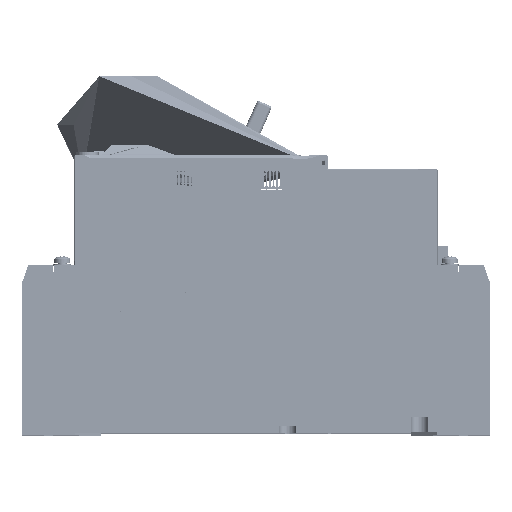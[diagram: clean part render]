
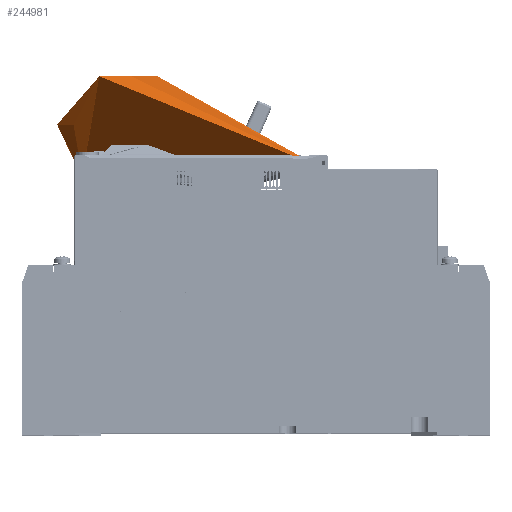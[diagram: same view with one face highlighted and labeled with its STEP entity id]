
A CAD part, top view. The second image highlights one B-rep face of the part: STEP entity #244981.
In plain terms, the highlighted conical face has half-angle 45 degrees and reference radius 1.23 mm.
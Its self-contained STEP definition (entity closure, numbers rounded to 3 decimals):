
#27382 = ORIENTED_EDGE ( 'NONE', *, *, #328297, .F. ) ;
#66355 = CARTESIAN_POINT ( 'NONE',  ( -98.27, 83.957, 35. ) ) ;
#72036 = CARTESIAN_POINT ( 'NONE',  ( 25.5, 91.724, 129.8 ) ) ;
#107256 = LINE ( 'NONE', #848612, #228353 ) ;
#114009 = DIRECTION ( 'NONE',  ( -1., 0., 0. ) ) ;
#131354 = CARTESIAN_POINT ( 'NONE',  ( 25.5, 91.724, 129.8 ) ) ;
#140986 = CIRCLE ( 'NONE', #799337, 1.229 ) ;
#164360 = VECTOR ( 'NONE', #601029, 1000. ) ;
#164804 = VERTEX_POINT ( 'NONE', #751301 ) ;
#199166 = VERTEX_POINT ( 'NONE', #412796 ) ;
#228353 = VECTOR ( 'NONE', #247510, 1000. ) ;
#235183 = DIRECTION ( 'NONE',  ( 0., 1., 0. ) ) ;
#241166 = AXIS2_PLACEMENT_3D ( 'NONE', #285699, #781135, #114009 ) ;
#244981 = ADVANCED_FACE ( 'NONE', ( #702450 ), #283240, .F. ) ;
#247510 = DIRECTION ( 'NONE',  ( -0.707, 0.707, 0. ) ) ;
#256495 = EDGE_CURVE ( 'NONE', #281706, #823976, #531491, .T. ) ;
#281706 = VERTEX_POINT ( 'NONE', #66355 ) ;
#283240 = CONICAL_SURFACE ( 'NONE', #241166, 1.229, 0.785 ) ;
#285699 = CARTESIAN_POINT ( 'NONE',  ( -99.5, 83.957, 35. ) ) ;
#311224 = EDGE_CURVE ( 'NONE', #164804, #348791, #107256, .T. ) ;
#317880 = ORIENTED_EDGE ( 'NONE', *, *, #325160, .T. ) ;
#325160 = EDGE_CURVE ( 'NONE', #823805, #199166, #535125, .T. ) ;
#328297 = EDGE_CURVE ( 'NONE', #164804, #281706, #140986, .T. ) ;
#347169 = CARTESIAN_POINT ( 'NONE',  ( -98.004, 84.224, 35. ) ) ;
#348791 = VERTEX_POINT ( 'NONE', #744475 ) ;
#412796 = CARTESIAN_POINT ( 'NONE',  ( 28.082, 91.724, 129.8 ) ) ;
#452300 = ORIENTED_EDGE ( 'NONE', *, *, #317880, .F. ) ;
#513205 = ORIENTED_EDGE ( 'NONE', *, *, #311224, .T. ) ;
#522909 = DIRECTION ( 'NONE',  ( 0.707, 0.707, 0. ) ) ;
#531491 = LINE ( 'NONE', #851806, #698689 ) ;
#535125 = LINE ( 'NONE', #131354, #164360 ) ;
#601029 = DIRECTION ( 'NONE',  ( 1., 0., 0. ) ) ;
#697598 = EDGE_LOOP ( 'NONE', ( #787561, #27382, #513205, #452300 ) ) ;
#698689 = VECTOR ( 'NONE', #522909, 1000. ) ;
#702450 = FACE_OUTER_BOUND ( 'NONE', #697598, .T. ) ;
#709318 = CARTESIAN_POINT ( 'NONE',  ( -99.5, 83.957, 35. ) ) ;
#744475 = CARTESIAN_POINT ( 'NONE',  ( -100.996, 84.224, 35. ) ) ;
#751301 = CARTESIAN_POINT ( 'NONE',  ( -100.73, 83.957, 35. ) ) ;
#781135 = DIRECTION ( 'NONE',  ( 0., 1., 0. ) ) ;
#787561 = ORIENTED_EDGE ( 'NONE', *, *, #256495, .F. ) ;
#799337 = AXIS2_PLACEMENT_3D ( 'NONE', #709318, #235183, #832056 ) ;
#823805 = VERTEX_POINT ( 'NONE', #72036 ) ;
#823976 = VERTEX_POINT ( 'NONE', #347169 ) ;
#832056 = DIRECTION ( 'NONE',  ( 1., 0., 0. ) ) ;
#848612 = CARTESIAN_POINT ( 'NONE',  ( -100.73, 83.957, 35. ) ) ;
#851806 = CARTESIAN_POINT ( 'NONE',  ( -98.27, 83.957, 35. ) ) ;
